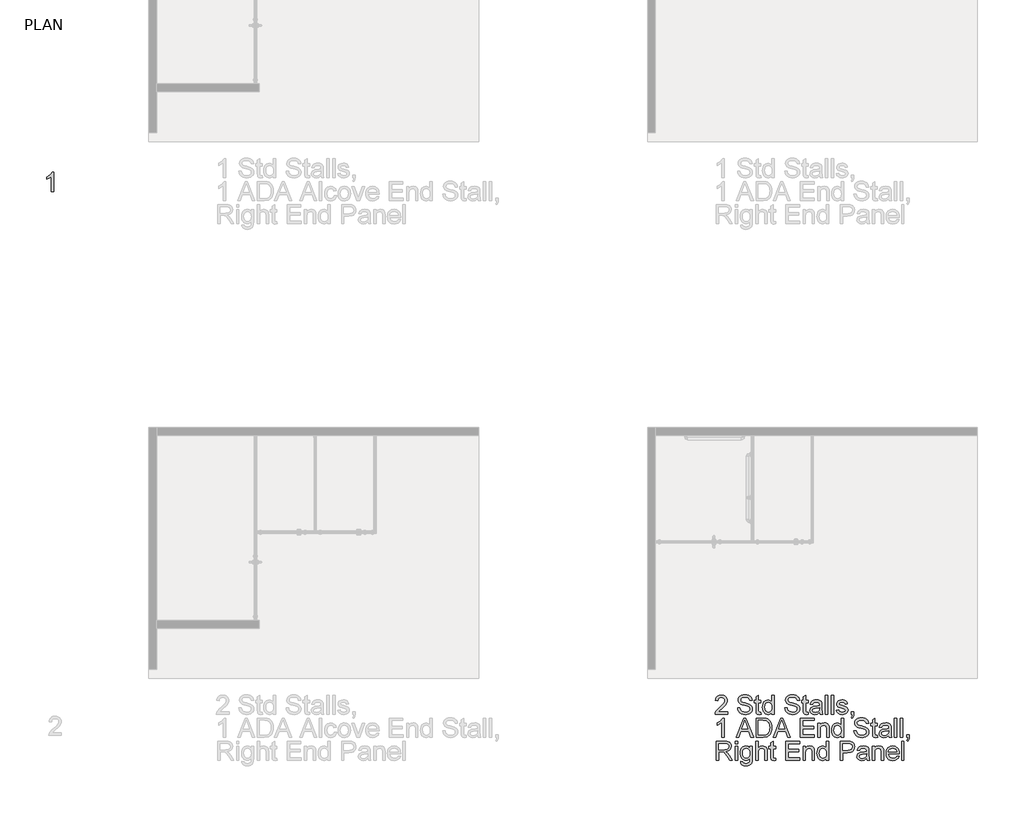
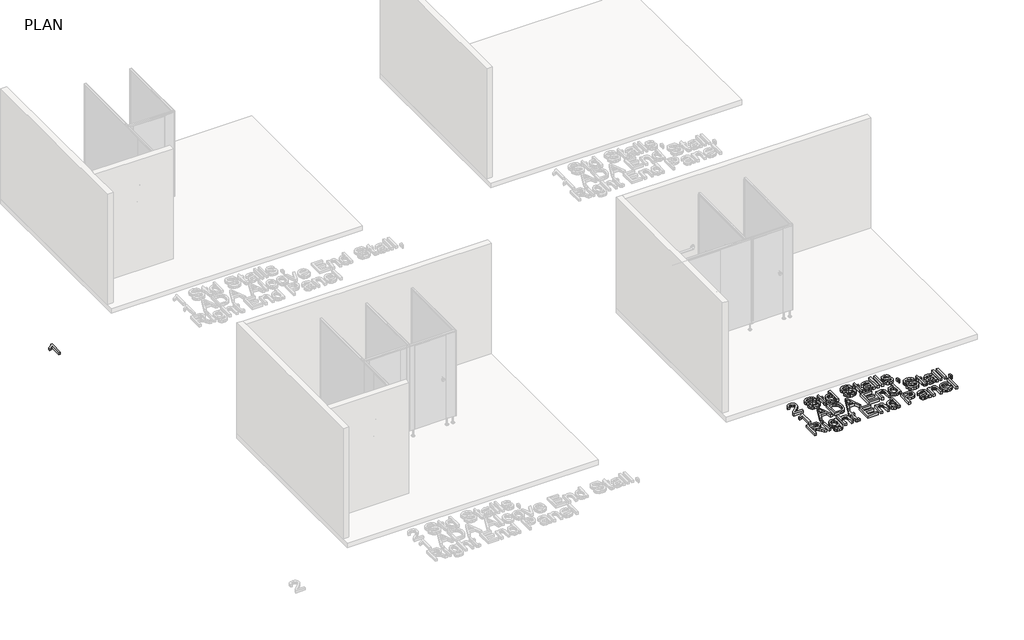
# One storey, part 15 of 21: 2 proxies.
"""IFC4 building model written with IfcOpenShell, lengths in millimetres."""

import ifcopenshell
import ifcopenshell.guid

model = None  # the IFC model being written
_history = None  # IfcOwnerHistory: only IFC2X3 demands one
_inside = {}  # id of a spatial element -> (the spatial element, [elements in it])
_under = {}  # id of a project, library or spatial element -> (it, [spatial elements below it])
_declared = {}  # id of a project -> (the project, [libraries it declares])
_typed = {}  # id of a type object -> (the type object, [elements of that type])
_made_of = {}  # id of a material, layer set ... -> (it, [elements and type objects made of it])


def new_model(schema):
    """Start an empty IFC model of exactly this schema.

    Asked for "IFC4X3", IfcOpenShell would pick the latest addendum, in which some entities
    have other attributes; the version numbers below select the first issue.
    IFC2X3 requires an IfcOwnerHistory on every rooted entity: one is made here for all.
    """
    global model, _history
    if schema == "IFC4X3":
        model = ifcopenshell.file(schema_version=(4, 3, 0, 0))
    else:
        model = ifcopenshell.file(schema=schema)
    _inside.clear()
    _under.clear()
    _declared.clear()
    _typed.clear()
    _made_of.clear()
    _history = None
    if model.schema == "IFC2X3":
        org = make("IfcOrganization", Name="unknown")
        user = make(
            "IfcPersonAndOrganization",
            ThePerson=make("IfcPerson", FamilyName="unknown"),
            TheOrganization=org,
        )
        app = make(
            "IfcApplication",
            ApplicationDeveloper=org,
            Version="unknown",
            ApplicationFullName="unknown",
            ApplicationIdentifier="unknown",
        )
        _history = make(
            "IfcOwnerHistory",
            OwningUser=user,
            OwningApplication=app,
            ChangeAction="ADDED",
            CreationDate=0,
        )
    return model


def make(cls, **values):
    """One entity of the class cls with the attributes given. An attribute that is None is left unset."""
    return model.create_entity(
        cls, **{name: value for name, value in values.items() if value is not None}
    )


def rooted(cls, **values):
    """An entity with a GlobalId (a new one), such as an element, a storey or a relation."""
    return make(cls, GlobalId=ifcopenshell.guid.new(), OwnerHistory=_history, **values)


def si_unit(unit_type, name, prefix=None):
    """IfcSIUnit, for example si_unit("LENGTHUNIT", "METRE", prefix="MILLI")."""
    return make("IfcSIUnit", UnitType=unit_type, Prefix=prefix, Name=name)


def assignment(units):
    """IfcUnitAssignment: the units of a project."""
    return None if units is None else make("IfcUnitAssignment", Units=units)


def point(xyz):
    """IfcCartesianPoint."""
    return None if xyz is None else make("IfcCartesianPoint", Coordinates=xyz)


def direction(xyz):
    """IfcDirection."""
    return None if xyz is None else make("IfcDirection", DirectionRatios=xyz)


def frame(location, z_axis=None, x_axis=None):
    """IfcAxis2Placement3D, a coordinate frame: its origin and axes. An axis left out is left unset."""
    return make(
        "IfcAxis2Placement3D",
        Location=point(location),
        Axis=direction(z_axis),
        RefDirection=direction(x_axis),
    )


def origin():
    """The frame at (0, 0, 0) with its axes left unset."""
    return frame((0.0, 0.0, 0.0))


def origin_with_axes():
    """The frame at (0, 0, 0) with the z axis (0, 0, 1) and the x axis (1, 0, 0) written out."""
    return frame((0.0, 0.0, 0.0), z_axis=(0.0, 0.0, 1.0), x_axis=(1.0, 0.0, 0.0))


def place(relative_to, where):
    """IfcLocalPlacement: puts the frame where relative to a parent placement (None: the world)."""
    return make(
        "IfcLocalPlacement", PlacementRelTo=relative_to, RelativePlacement=where
    )


def context(
    kind, dimensions, precision=None, world=None, true_north=None, identifier=None
):
    """IfcGeometricRepresentationContext, for example the 3D "Model" context."""
    return make(
        "IfcGeometricRepresentationContext",
        ContextIdentifier=identifier,
        ContextType=kind,
        CoordinateSpaceDimension=dimensions,
        Precision=precision,
        WorldCoordinateSystem=world,
        TrueNorth=true_north,
    )


def project(units=None, contexts=None):
    """IfcProject with its units and contexts."""
    return rooted(
        "IfcProject",
        Name="project",
        RepresentationContexts=contexts,
        UnitsInContext=assignment(units),
    )


def spatial(cls, under=None, at=None, **own):
    """A site, building, storey or space (cls), placed at a placement, below another one or the project."""
    s = rooted(cls, ObjectPlacement=at, **own)
    if under is not None:
        _under.setdefault(under.id(), (under, []))[1].append(s)
    return s


def polyline(points):
    """IfcPolyline through the points."""
    return make("IfcPolyline", Points=[point(p) for p in points])


def outline(outer, holes=None, kind="AREA"):
    """IfcArbitraryClosedProfileDef: a profile drawn as a closed curve; with holes, ...WithVoids."""
    if holes is None:
        return make("IfcArbitraryClosedProfileDef", ProfileType=kind, OuterCurve=outer)
    return make(
        "IfcArbitraryProfileDefWithVoids",
        ProfileType=kind,
        OuterCurve=outer,
        InnerCurves=holes,
    )


def extrude(swept, where, along, depth):
    """IfcExtrudedAreaSolid: the profile swept, set in the frame where, extruded along a direction by depth."""
    return make(
        "IfcExtrudedAreaSolid",
        SweptArea=swept,
        Position=where,
        ExtrudedDirection=direction(along),
        Depth=depth,
    )


def shape(context_of_items, identifier, shape_type, items):
    """IfcShapeRepresentation: the items that make up one representation, for example the "Body"."""
    return make(
        "IfcShapeRepresentation",
        ContextOfItems=context_of_items,
        RepresentationIdentifier=identifier,
        RepresentationType=shape_type,
        Items=items,
    )


def made_of(thing, what):
    """Note that an element or type object is made of a material, layer set ...; save() writes the relation."""
    if what is not None:
        _made_of.setdefault(what.id(), (what, []))[1].append(thing)
    return thing


def element(
    cls,
    number,
    at=None,
    inside=None,
    cuts=None,
    type_object=None,
    material=None,
    context=None,
    identifier="Body",
    shape_type=None,
    held_by="IfcProductDefinitionShape",
    body=None,
    shapes=None,
    **own,
):
    """One element of the class cls, such as IfcWall. Its Tag is "e" and its number.

    at: its placement. inside: the storey or other place that contains it. cuts: it is an
    opening in that element (IfcRelVoidsElement). A single representation is given by context,
    identifier, shape_type and body (its items); several are given by shapes. held_by: the class
    of the entity that holds the representations. save() writes the other relations.
    """
    e = rooted(cls, Tag="e%d" % number, ObjectPlacement=at, **own)
    if body is not None:
        shapes = [shape(context, identifier, shape_type, body)]
    if shapes is not None:
        e.Representation = make(held_by, Representations=shapes)
    if inside is not None:
        _inside.setdefault(inside.id(), (inside, []))[1].append(e)
    if cuts is not None:
        rooted(
            "IfcRelVoidsElement", RelatingBuildingElement=cuts, RelatedOpeningElement=e
        )
    if type_object is not None:
        _typed.setdefault(type_object.id(), (type_object, []))[1].append(e)
    return made_of(e, material)


def aggregate(whole, parts):
    """IfcRelAggregates: a whole, such as a stair, and the parts it consists of."""
    return rooted("IfcRelAggregates", RelatingObject=whole, RelatedObjects=parts)


def save(model, path):
    """Write the relations noted so far, then the file.

    IfcRelAggregates (storeys below a building ...), IfcRelContainedInSpatialStructure (elements
    in a storey), IfcRelDefinesByType, IfcRelAssociatesMaterial and IfcRelDeclares: one each for
    every whole, place, type object, material and project.
    """
    for whole, parts in _under.values():
        aggregate(whole, parts)
    for where, things in _inside.values():
        rooted(
            "IfcRelContainedInSpatialStructure",
            RelatedElements=things,
            RelatingStructure=where,
        )
    for kind, things in _typed.values():
        rooted("IfcRelDefinesByType", RelatedObjects=things, RelatingType=kind)
    for what, things in _made_of.values():
        rooted("IfcRelAssociatesMaterial", RelatedObjects=things, RelatingMaterial=what)
    for by, libraries in _declared.values():
        rooted("IfcRelDeclares", RelatingContext=by, RelatedDefinitions=libraries)
    model.write(path)


model = new_model("IFC4")

# Units and contexts
model_context = context("Model", 3, world=origin())
ifc_project = project(units=[si_unit("LENGTHUNIT", "METRE", prefix="MILLI")], contexts=[model_context])

# Site, building, storey
site = spatial("IfcSite", under=ifc_project)
building = spatial("IfcBuilding", under=site)
storey = spatial("IfcBuildingStorey", under=building, Name="PLAN", Elevation=0.0)

# Proxies
placement = place(None, origin())
element("IfcBuildingElementProxy", 1, Name="12\" Arial", ObjectType="12\" Arial", at=placement, inside=storey, context=model_context, shape_type="SweptSolid", body=[
    extrude(outline(polyline([(-24604.2602811, 20562.3650524), (-24642.3311679, 20562.3650524), (-24642.3311679, 20799.7132371), (-24678.3944102, 20774.0228242), (-24718.4729414, 20754.8014878), (-24718.4729414, 20790.790373), (-24688.572052, 20807.0560106), (-24662.6678623, 20826.4074721), (-24642.247516, 20846.9858274), (-24628.7981573, 20866.9321465), (-24604.2602811, 20866.9321465), (-24604.2602811, 20562.3650524)])), origin_with_axes(), (0.0, 0.0, 1.0), 50.8),
])
element("IfcBuildingElementProxy", 2, Name="12\" Arial", ObjectType="12\" Arial", at=placement, inside=storey, context=model_context, shape_type="SweptSolid", body=[
    extrude(outline(polyline([(-13893.5095314, 12285.5104506), (-13893.5095314, 12247.4395639), (-14093.3816869, 12247.4395639), (-14089.2920408, 12273.6876557), (-14079.9044443, 12294.2009485), (-14066.1669514, 12314.1007943), (-14046.2949895, 12334.9301052), (-14018.5039858, 12358.2317929), (-13977.4216324, 12394.7225892), (-13952.7722204, 12421.6584851), (-13940.4475143, 12443.5195021), (-13936.339279, 12464.7856615), (-13940.2151481, 12483.8489889), (-13951.8427553, 12499.6963673), (-13969.7163675, 12510.3759202), (-13992.3302511, 12513.9357712), (-14016.0780821, 12510.4595721), (-14034.5279625, 12500.0309747), (-14046.4344093, 12483.4679082), (-14050.5519393, 12461.5883019), (-14088.622826, 12466.3471627), (-14085.3487855, 12486.0007003), (-14079.3932385, 12503.1725664), (-14070.7561849, 12517.8627608), (-14059.4376248, 12530.0712837), (-14045.6978083, 12539.66801), (-14029.7969856, 12546.5228144), (-13991.5123219, 12552.0066579), (-13971.1082413, 12550.4823353), (-13952.9488187, 12545.9093675), (-13937.0340541, 12538.2877544), (-13923.3639475, 12527.6174961), (-13912.3846421, 12514.6886378), (-13904.542281, 12500.2912249), (-13899.8368644, 12484.4252572), (-13898.2683922, 12467.0907347), (-13899.9600186, 12448.8825152), (-13905.0348975, 12430.9903138), (-13914.0414134, 12412.7913889), (-13927.5279507, 12393.6629991), (-13949.0264764, 12370.8260438), (-13982.0689574, 12341.5014228), (-14025.8653486, 12304.8805014), (-14043.041862, 12285.5104506), (-13893.5095314, 12285.5104506)])), origin_with_axes(), (0.0, 0.0, 1.0), 50.8),
    extrude(outline(polyline([(-13736.4671235, 12352.1345025), (-13698.3962368, 12352.1345025), (-13694.0277512, 12331.0077628), (-13686.1272986, 12314.0264371), (-13673.8025926, 12300.5491945), (-13656.1613468, 12289.9347041), (-13634.5977586, 12283.0473684), (-13610.5060255, 12280.7515898), (-13589.295634, 12282.4896894), (-13570.7249232, 12287.7039881), (-13555.6768847, 12295.9576373), (-13545.0345103, 12306.8137886), (-13538.7048536, 12319.2779144), (-13536.594968, 12332.3554871), (-13538.1750585, 12345.0984523), (-13542.9153301, 12356.1126127), (-13552.5445876, 12365.5095039), (-13568.7916359, 12373.4006619), (-13624.2249291, 12387.9374946), (-13660.6134842, 12397.5574574), (-13683.8965826, 12406.7126878), (-13702.8483741, 12419.5207156), (-13716.2791435, 12435.0427812), (-13724.2818373, 12452.9442773), (-13726.9494018, 12472.8905964), (-13723.649801, 12495.188462), (-13713.7509987, 12515.9805942), (-13697.513245, 12533.6032508), (-13675.1967901, 12546.3926893), (-13648.4096086, 12554.1723114), (-13618.7596748, 12556.7655188), (-13586.6373641, 12554.051481), (-13558.5303422, 12545.9093675), (-13535.4424314, 12532.5064821), (-13518.3774539, 12514.0101284), (-13507.5770705, 12491.5728431), (-13503.2829421, 12466.3471627), (-13541.3538289, 12466.3471627), (-13548.3434057, 12489.0632876), (-13562.9174171, 12505.4590503), (-13585.6893098, 12515.3857366), (-13617.2725308, 12518.694632), (-13649.5993238, 12515.4229152), (-13671.7763589, 12505.6077647), (-13684.602976, 12491.1638785), (-13688.8785151, 12474.0059544), (-13685.8484591, 12459.3761752), (-13676.7582914, 12447.6091482), (-13655.2690604, 12437.0876043), (-13614.5956716, 12426.3429888), (-13572.6210318, 12416.137463), (-13547.2280477, 12407.2331882), (-13525.5250398, 12393.4213382), (-13510.3840548, 12376.3749499), (-13501.4890747, 12356.2799164), (-13498.5240813, 12333.3221307), (-13501.9352179, 12309.8531392), (-13512.1686276, 12287.7783453), (-13528.8060513, 12268.7800805), (-13551.4292296, 12254.5406765), (-13578.6346704, 12245.6456964), (-13609.0188815, 12242.680703), (-13646.3183123, 12245.8780627), (-13677.0185416, 12255.4701416), (-13701.4727659, 12271.4941183), (-13720.0341822, 12293.9871715), (-13731.9499236, 12321.3878), (-13736.4671235, 12352.1345025)])), origin_with_axes(), (0.0, 0.0, 1.0), 50.8),
    extrude(outline(polyline([(-13365.2759776, 12279.1900886), (-13360.5171168, 12246.3242059), (-13388.9959246, 12242.680703), (-13407.2692067, 12244.2607935), (-13420.8951637, 12249.0010651), (-13430.5244212, 12256.3066601), (-13436.8076047, 12265.5827208), (-13440.2652145, 12281.5137511), (-13441.4177511, 12308.7842545), (-13441.4177511, 12433.0351368), (-13469.9709162, 12433.0351368), (-13469.9709162, 12471.1060236), (-13441.4177511, 12471.1060236), (-13441.4177511, 12525.4611373), (-13403.3468644, 12547.8426547), (-13403.3468644, 12471.1060236), (-13365.2759776, 12471.1060236), (-13365.2759776, 12433.0351368), (-13403.3468644, 12433.0351368), (-13403.3468644, 12309.8996125), (-13401.33922, 12290.2693115), (-13394.8329649, 12283.3169132), (-13381.8576334, 12280.7515898), (-13365.2759776, 12279.1900886)])), origin_with_axes(), (0.0, 0.0, 1.0), 50.8),
    extrude(outline(polyline([(-13189.1981264, 12247.4395639), (-13189.1981264, 12283.3540918), (-13200.58872, 12265.5594842), (-13214.3866281, 12252.8490502), (-13230.5918505, 12245.2227898), (-13249.2043873, 12242.680703), (-13273.8166208, 12246.3613845), (-13296.3468526, 12257.4034288), (-13315.4194746, 12275.03538), (-13329.6588785, 12298.4857822), (-13338.5259747, 12326.806581), (-13341.4816734, 12359.0497221), (-13338.7583409, 12390.8931933), (-13330.5883435, 12419.6508407), (-13316.9809758, 12443.6868058), (-13297.9455324, 12461.3652303), (-13274.9226841, 12472.2399709), (-13249.3531017, 12475.8648844), (-13230.726623, 12473.2716771), (-13214.256503, 12465.4920549), (-13200.2959386, 12453.5670189), (-13189.1981264, 12438.5375697), (-13189.1981264, 12552.0066579), (-13151.1272396, 12552.0066579), (-13151.1272396, 12247.4395639), (-13189.1981264, 12247.4395639)]), holes=[polyline([(-13303.4107866, 12359.1984365), (-13299.1166583, 12324.761758), (-13286.2342733, 12300.270355), (-13267.514848, 12285.6312811), (-13245.7095989, 12280.7515898), (-13223.9136444, 12285.4082095), (-13205.6682463, 12299.3780686), (-13193.3156564, 12322.9214172), (-13189.1981264, 12356.2985057), (-13193.3900136, 12392.7893019), (-13205.9656751, 12418.0893395), (-13224.6758057, 12432.8678331), (-13247.2711001, 12437.7939977), (-13269.2994208, 12433.0630208), (-13287.3496313, 12418.8700901), (-13299.3954978, 12394.4902229), (-13303.4107866, 12359.1984365)])]), origin_with_axes(), (0.0, 0.0, 1.0), 50.8),
    extrude(outline(polyline([(-12984.56711, 12352.1345025), (-12946.4962233, 12352.1345025), (-12942.1277377, 12331.0077628), (-12934.2272852, 12314.0264371), (-12921.9025791, 12300.5491945), (-12904.2613333, 12289.9347041), (-12882.6977451, 12283.0473684), (-12858.606012, 12280.7515898), (-12837.3956205, 12282.4896894), (-12818.8249097, 12287.7039881), (-12803.7768712, 12295.9576373), (-12793.1344968, 12306.8137886), (-12786.8048401, 12319.2779144), (-12784.6949546, 12332.3554871), (-12786.2750451, 12345.0984523), (-12791.0153166, 12356.1126127), (-12800.6445741, 12365.5095039), (-12816.8916225, 12373.4006619), (-12872.3249156, 12387.9374946), (-12908.7134707, 12397.5574574), (-12931.9965691, 12406.7126878), (-12950.9483607, 12419.5207156), (-12964.37913, 12435.0427812), (-12972.3818238, 12452.9442773), (-12975.0493883, 12472.8905964), (-12971.7497876, 12495.188462), (-12961.8509852, 12515.9805942), (-12945.6132315, 12533.6032508), (-12923.2967767, 12546.3926893), (-12896.5095951, 12554.1723114), (-12866.8596613, 12556.7655188), (-12834.7373506, 12554.051481), (-12806.6303288, 12545.9093675), (-12783.5424179, 12532.5064821), (-12766.4774404, 12514.0101284), (-12755.677057, 12491.5728431), (-12751.3829286, 12466.3471627), (-12789.4538154, 12466.3471627), (-12796.4433923, 12489.0632876), (-12811.0174036, 12505.4590503), (-12833.7892963, 12515.3857366), (-12865.3725173, 12518.694632), (-12897.6993103, 12515.4229152), (-12919.8763454, 12505.6077647), (-12932.7029625, 12491.1638785), (-12936.9785016, 12474.0059544), (-12933.9484457, 12459.3761752), (-12924.8582779, 12447.6091482), (-12903.3690469, 12437.0876043), (-12862.6956581, 12426.3429888), (-12820.7210183, 12416.137463), (-12795.3280343, 12407.2331882), (-12773.6250263, 12393.4213382), (-12758.4840413, 12376.3749499), (-12749.5890612, 12356.2799164), (-12746.6240678, 12333.3221307), (-12750.0352044, 12309.8531392), (-12760.2686141, 12287.7783453), (-12776.9060378, 12268.7800805), (-12799.5292161, 12254.5406765), (-12826.7346569, 12245.6456964), (-12857.118868, 12242.680703), (-12894.4182988, 12245.8780627), (-12925.1185281, 12255.4701416), (-12949.5727525, 12271.4941183), (-12968.1341687, 12293.9871715), (-12980.0499101, 12321.3878), (-12984.56711, 12352.1345025)])), origin_with_axes(), (0.0, 0.0, 1.0), 50.8),
    extrude(outline(polyline([(-12613.3759641, 12279.1900886), (-12608.6171033, 12246.3242059), (-12637.0959112, 12242.680703), (-12655.3691932, 12244.2607935), (-12668.9951503, 12249.0010651), (-12678.6244078, 12256.3066601), (-12684.9075912, 12265.5827208), (-12688.365201, 12281.5137511), (-12689.5177377, 12308.7842545), (-12689.5177377, 12433.0351368), (-12718.0709027, 12433.0351368), (-12718.0709027, 12471.1060236), (-12689.5177377, 12471.1060236), (-12689.5177377, 12525.4611373), (-12651.4468509, 12547.8426547), (-12651.4468509, 12471.1060236), (-12613.3759641, 12471.1060236), (-12613.3759641, 12433.0351368), (-12651.4468509, 12433.0351368), (-12651.4468509, 12309.8996125), (-12649.4392065, 12290.2693115), (-12642.9329514, 12283.3169132), (-12629.9576199, 12280.7515898), (-12613.3759641, 12279.1900886)])), origin_with_axes(), (0.0, 0.0, 1.0), 50.8),
    extrude(outline(polyline([(-12432.539252, 12275.9927289), (-12450.7288823, 12260.3963061), (-12469.4576022, 12250.1907803), (-12489.1529657, 12244.5582224), (-12510.2425268, 12242.680703), (-12542.058114, 12247.197903), (-12565.5271055, 12260.7495028), (-12579.9988757, 12281.3278581), (-12584.8227991, 12306.9253244), (-12583.0010477, 12322.7076403), (-12577.5357934, 12337.0399907), (-12569.1055458, 12349.3089288), (-12558.3888142, 12358.9010077), (-12531.7317578, 12371.3930174), (-12498.7915179, 12377.1185219), (-12459.8655233, 12383.1414552), (-12432.7623236, 12390.2053892), (-12432.539252, 12398.6821101), (-12435.1603434, 12415.6727305), (-12443.0236173, 12426.789132), (-12460.6090953, 12435.0427812), (-12485.1097929, 12437.7939977), (-12507.7887391, 12435.9629516), (-12523.6268229, 12430.4698134), (-12534.4272063, 12420.3107609), (-12541.9930515, 12404.4819718), (-12580.0639382, 12409.2408326), (-12573.455442, 12430.0608488), (-12563.5938183, 12446.419433), (-12549.5588966, 12458.930032), (-12530.4305068, 12468.2060928), (-12507.0358725, 12473.9501865), (-12480.2022177, 12475.8648844), (-12454.4653316, 12474.1732581), (-12434.0635747, 12469.0983792), (-12418.6809288, 12461.4674714), (-12408.0013758, 12452.1077588), (-12400.9188524, 12440.5359194), (-12396.3272953, 12426.2686316), (-12394.4683653, 12392.9566056), (-12394.4683653, 12345.5910688), (-12392.5350781, 12279.4503388), (-12384.9506436, 12247.4395639), (-12423.0215303, 12247.4395639), (-12429.1188208, 12260.6751456), (-12432.539252, 12275.9927289)]), holes=[polyline([(-12432.539252, 12352.1345025), (-12493.9582998, 12340.460422), (-12526.7126467, 12334.2887743), (-12541.5469083, 12324.2505522), (-12546.7519123, 12309.6021837), (-12543.917044, 12298.2812999), (-12535.4124392, 12289.0052391), (-12521.4239908, 12282.8150021), (-12502.1375919, 12280.7515898), (-12481.6893617, 12283.0287791), (-12463.6205619, 12289.8603469), (-12448.9721934, 12299.9264529), (-12438.7852569, 12311.9072569), (-12434.268057, 12324.2505522), (-12432.7623236, 12341.3527084), (-12432.539252, 12352.1345025)])]), origin_with_axes(), (0.0, 0.0, 1.0), 50.8),
    extrude(outline(polyline([(-12342.120896, 12247.4395639), (-12342.120896, 12552.0066579), (-12304.0500092, 12552.0066579), (-12304.0500092, 12247.4395639), (-12342.120896, 12247.4395639)])), origin_with_axes(), (0.0, 0.0, 1.0), 50.8),
    extrude(outline(polyline([(-12246.9436791, 12247.4395639), (-12246.9436791, 12552.0066579), (-12208.8727923, 12552.0066579), (-12208.8727923, 12247.4395639), (-12246.9436791, 12247.4395639)])), origin_with_axes(), (0.0, 0.0, 1.0), 50.8),
    extrude(outline(polyline([(-12166.0430447, 12314.0636157), (-12127.972158, 12318.8224765), (-12121.967814, 12302.5382496), (-12110.3495014, 12290.5667403), (-12093.0428629, 12283.2053774), (-12069.9735414, 12280.7515898), (-12047.1830594, 12283.0008951), (-12031.1590827, 12289.7488111), (-12021.6785396, 12299.526783), (-12018.5183585, 12310.8662561), (-12021.6971289, 12320.5698708), (-12031.2334399, 12327.9684122), (-12070.4196846, 12338.8245635), (-12127.7490864, 12357.4510423), (-12142.2580352, 12366.810755), (-12152.7702844, 12379.2005235), (-12159.155709, 12393.8303028), (-12161.2841839, 12409.9100474), (-12159.5739683, 12424.6606571), (-12154.4433214, 12438.2773195), (-12146.3569758, 12450.2209448), (-12135.779664, 12459.9524435), (-12111.5763952, 12471.2175594), (-12078.8220483, 12475.8648844), (-12054.0425112, 12473.9966598), (-12032.4975123, 12468.3919858), (-12015.1722845, 12459.5992468), (-12003.0520608, 12448.1668272), (-11995.0214831, 12433.2489138), (-11989.9651935, 12413.9996934), (-12028.0360802, 12409.2408326), (-12032.8414143, 12421.2216366), (-12042.3498414, 12430.2467418), (-12056.6543078, 12435.9071837), (-12075.8477603, 12437.7939977), (-12097.7087773, 12435.9908356), (-12112.2827886, 12430.5813492), (-12120.48067, 12422.7738431), (-12123.2132971, 12413.7766218), (-12118.6775079, 12402.6973989), (-12104.4752825, 12394.2950353), (-12071.683757, 12386.1901004), (-12015.8043207, 12368.270015), (-12001.0444164, 12359.7003476), (-11989.8536577, 12347.9704992), (-11982.7990183, 12333.0432912), (-11980.4474718, 12314.8815449), (-11983.2079829, 12296.1063517), (-11991.4895161, 12278.4465166), (-12004.9760534, 12263.2869423), (-12023.3515766, 12252.0125317), (-12045.547201, 12245.0136602), (-12070.4940418, 12242.680703), (-12108.8809467, 12247.1793137), (-12136.8950221, 12260.6751456), (-12155.595858, 12283.0194844), (-12166.0430447, 12314.0636157)])), origin_with_axes(), (0.0, 0.0, 1.0), 50.8),
    extrude(outline(polyline([(-11928.1000025, 12247.4395639), (-11928.1000025, 12285.5104506), (-11890.0291157, 12285.5104506), (-11890.0291157, 12247.4395639), (-11891.7393313, 12225.6621987), (-11896.8699782, 12208.5135693), (-11905.7184851, 12195.3616394), (-11918.5822808, 12185.5743729), (-11928.1000025, 12199.8509554), (-11919.8463532, 12206.7475858), (-11914.1208488, 12216.2838968), (-11909.1389163, 12247.4395639), (-11928.1000025, 12247.4395639)])), origin_with_axes(), (0.0, 0.0, 1.0), 50.8),
    extrude(outline(polyline([(-13945.8570007, 11881.3868995), (-13983.9278874, 11881.3868995), (-13983.9278874, 12118.7350842), (-14019.9911298, 12093.0446713), (-14060.069661, 12073.823335), (-14060.069661, 12109.8122201), (-14030.1687716, 12126.0778577), (-14004.2645818, 12145.4293192), (-13983.8442356, 12166.0076745), (-13970.3948769, 12185.9539936), (-13945.8570007, 12185.9539936), (-13945.8570007, 11881.3868995)])), origin_with_axes(), (0.0, 0.0, 1.0), 50.8),
    extrude(outline(polyline([(-13757.6589257, 11881.3868995), (-13636.0849026, 12185.9539936), (-13603.6651631, 12185.9539936), (-13482.0911399, 11881.3868995), (-13522.3183855, 11881.3868995), (-13557.1919126, 11976.5641164), (-13682.6325102, 11976.5641164), (-13717.4316801, 11881.3868995), (-13757.6589257, 11881.3868995)]), holes=[polyline([(-13668.6533565, 12014.6350032), (-13571.0967092, 12014.6350032), (-13598.5345162, 12089.5127043), (-13619.8750328, 12147.8831068), (-13638.836119, 12096.056138), (-13668.6533565, 12014.6350032)])]), origin_with_axes(), (0.0, 0.0, 1.0), 50.8),
    extrude(outline(polyline([(-13441.4177511, 11881.3868995), (-13441.4177511, 12185.9539936), (-13336.3510265, 12185.9539936), (-13281.9959128, 12181.5669188), (-13257.7182868, 12173.1087872), (-13237.232878, 12159.780259), (-13216.1712009, 12136.5808123), (-13201.1696357, 12107.7302185), (-13192.1910037, 12073.7861564), (-13189.1981264, 12035.306305), (-13191.2243601, 12002.6170206), (-13197.3030612, 11973.8500786), (-13206.5605327, 11949.3586756), (-13218.1230774, 11929.4960084), (-13231.4330164, 11913.8159337), (-13245.9326705, 11901.8723083), (-13262.5793888, 11893.0145068), (-13282.3305202, 11886.5919036), (-13331.2947369, 11881.3868995), (-13441.4177511, 11881.3868995)]), holes=[polyline([(-13403.3468644, 11919.4577863), (-13335.9792405, 11919.4577863), (-13308.1138796, 11920.8333945), (-13286.9778453, 11924.9602191), (-13271.0282257, 11931.5965993), (-13258.722109, 11940.5008741), (-13245.4958219, 11956.9802887), (-13235.559841, 11978.3115107), (-13229.3417201, 12004.5874864), (-13227.2690131, 12035.9011626), (-13231.3307752, 12077.3924806), (-13243.5160615, 12108.0276473), (-13261.5197987, 12129.0707351), (-13283.0369136, 12141.7858164), (-13304.9351093, 12146.3587842), (-13337.0202414, 12147.8831068), (-13403.3468644, 12147.8831068), (-13403.3468644, 11919.4577863)])]), origin_with_axes(), (0.0, 0.0, 1.0), 50.8),
    extrude(outline(polyline([(-13172.3190418, 11881.3868995), (-13050.7450187, 12185.9539936), (-13018.3252792, 12185.9539936), (-12896.751256, 11881.3868995), (-12936.9785016, 11881.3868995), (-12971.8520287, 11976.5641164), (-13097.2926263, 11976.5641164), (-13132.0917962, 11881.3868995), (-13172.3190418, 11881.3868995)]), holes=[polyline([(-13083.3134726, 12014.6350032), (-12985.7568252, 12014.6350032), (-13013.1946323, 12089.5127043), (-13034.5351489, 12147.8831068), (-13053.4962351, 12096.056138), (-13083.3134726, 12014.6350032)])]), origin_with_axes(), (0.0, 0.0, 1.0), 50.8),
    extrude(outline(polyline([(-12737.1063461, 11881.3868995), (-12737.1063461, 12185.9539936), (-12518.1987472, 12185.9539936), (-12518.1987472, 12147.8831068), (-12699.0354593, 12147.8831068), (-12699.0354593, 12057.4647508), (-12527.7164689, 12057.4647508), (-12527.7164689, 12019.393864), (-12699.0354593, 12019.393864), (-12699.0354593, 11919.4577863), (-12513.4398864, 11919.4577863), (-12513.4398864, 11881.3868995), (-12737.1063461, 11881.3868995)])), origin_with_axes(), (0.0, 0.0, 1.0), 50.8),
    extrude(outline(polyline([(-12461.0924171, 11881.3868995), (-12461.0924171, 12105.0533592), (-12423.0215303, 12105.0533592), (-12423.0215303, 12073.823335), (-12409.7952433, 12089.5684722), (-12393.9106863, 12100.8149988), (-12375.3678593, 12107.5629148), (-12354.1667625, 12109.8122201), (-12335.400864, 12107.9997633), (-12318.215056, 12102.562393), (-12303.8827055, 12094.1786186), (-12293.6771797, 12083.5269496), (-12282.2633494, 12055.5314636), (-12280.255705, 12018.7246492), (-12280.255705, 11881.3868995), (-12318.3265918, 11881.3868995), (-12318.3265918, 12013.5940024), (-12322.7136666, 12047.2778143), (-12328.7830731, 12057.3067417), (-12338.2171429, 12065.0863639), (-12350.3094827, 12070.077591), (-12364.353699, 12071.7413333), (-12386.6515646, 12068.004884), (-12405.659124, 12056.795536), (-12413.2551768, 12047.644953), (-12418.6809288, 12035.1390013), (-12423.0215303, 12000.0609919), (-12423.0215303, 11881.3868995), (-12461.0924171, 11881.3868995)])), origin_with_axes(), (0.0, 0.0, 1.0), 50.8),
    extrude(outline(polyline([(-12089.9012712, 11881.3868995), (-12089.9012712, 11917.3014275), (-12101.2918649, 11899.5068199), (-12115.0897729, 11886.7963859), (-12131.2949954, 11879.1701255), (-12149.9075322, 11876.6280387), (-12174.5197656, 11880.3087201), (-12197.0499974, 11891.3507644), (-12216.1226194, 11908.9827156), (-12230.3620233, 11932.4331178), (-12239.2291195, 11960.7539166), (-12242.1848182, 11992.9970578), (-12239.4614858, 12024.840529), (-12231.2914883, 12053.5981764), (-12217.6841206, 12077.6341415), (-12198.6486772, 12095.312566), (-12175.625829, 12106.1873066), (-12150.0562466, 12109.8122201), (-12131.4297678, 12107.2190127), (-12114.9596478, 12099.4393906), (-12100.9990834, 12087.5143545), (-12089.9012712, 12072.4849053), (-12089.9012712, 12185.9539936), (-12051.8303845, 12185.9539936), (-12051.8303845, 11881.3868995), (-12089.9012712, 11881.3868995)]), holes=[polyline([(-12204.1139315, 11993.1457722), (-12199.8198031, 11958.7090936), (-12186.9374181, 11934.2176906), (-12168.2179928, 11919.5786167), (-12146.4127437, 11914.6989255), (-12124.6167893, 11919.3555451), (-12106.3713912, 11933.3254042), (-12094.0188012, 11956.8687529), (-12089.9012712, 11990.2458414), (-12094.0931584, 12026.7366376), (-12106.66882, 12052.0366751), (-12125.3789506, 12066.8151688), (-12147.974245, 12071.7413333), (-12170.0025657, 12067.0103564), (-12188.0527761, 12052.8174258), (-12200.0986426, 12028.4375586), (-12204.1139315, 11993.1457722)])]), origin_with_axes(), (0.0, 0.0, 1.0), 50.8),
    extrude(outline(polyline([(-11885.2702549, 11986.0818381), (-11847.1993681, 11986.0818381), (-11842.8308826, 11964.9550985), (-11834.93043, 11947.9737728), (-11822.605724, 11934.4965301), (-11804.9644781, 11923.8820397), (-11783.4008899, 11916.994704), (-11759.3091569, 11914.6989255), (-11738.0987654, 11916.437025), (-11719.5280545, 11921.6513237), (-11704.480016, 11929.904973), (-11693.8376417, 11940.7611243), (-11687.507985, 11953.2252501), (-11685.3980994, 11966.3028227), (-11686.9781899, 11979.045788), (-11691.7184615, 11990.0599484), (-11701.3477189, 11999.4568396), (-11717.5947673, 12007.3479975), (-11773.0280604, 12021.8848303), (-11809.4166155, 12031.5047931), (-11832.699714, 12040.6600234), (-11851.6515055, 12053.4680513), (-11865.0822749, 12068.9901169), (-11873.0849686, 12086.891613), (-11875.7525332, 12106.8379321), (-11872.4529324, 12129.1357976), (-11862.5541301, 12149.9279299), (-11846.3163764, 12167.5505864), (-11823.9999215, 12180.340025), (-11797.21274, 12188.1196471), (-11767.5628062, 12190.7128545), (-11735.4404955, 12187.9988166), (-11707.3334736, 12179.8567031), (-11684.2455628, 12166.4538177), (-11667.1805852, 12147.957464), (-11656.3802018, 12125.5201787), (-11652.0860735, 12100.2944984), (-11690.1569602, 12100.2944984), (-11697.1465371, 12123.0106232), (-11711.7205484, 12139.406386), (-11734.4924412, 12149.3330723), (-11766.0756622, 12152.6419677), (-11798.4024552, 12149.3702509), (-11820.5794903, 12139.5551004), (-11833.4061074, 12125.1112141), (-11837.6816464, 12107.9532901), (-11834.6515905, 12093.3235108), (-11825.5614227, 12081.5564838), (-11804.0721917, 12071.0349399), (-11763.3988029, 12060.2903244), (-11721.4241631, 12050.0847986), (-11696.0311791, 12041.1805238), (-11674.3281711, 12027.3686738), (-11659.1871862, 12010.3222856), (-11650.292206, 11990.2272521), (-11647.3272126, 11967.2694663), (-11650.7383492, 11943.8004749), (-11660.971759, 11921.7256809), (-11677.6091826, 11902.7274161), (-11700.2323609, 11888.4880122), (-11727.4378017, 11879.5930321), (-11757.8220129, 11876.6280387), (-11795.1214437, 11879.8253983), (-11825.8216729, 11889.4174772), (-11850.2758973, 11905.441454), (-11868.8373135, 11927.9345072), (-11880.7530549, 11955.3351356), (-11885.2702549, 11986.0818381)])), origin_with_axes(), (0.0, 0.0, 1.0), 50.8),
    extrude(outline(polyline([(-11514.079109, 11913.1374242), (-11509.3202481, 11880.2715415), (-11537.799056, 11876.6280387), (-11556.0723381, 11878.2081292), (-11569.6982951, 11882.9484008), (-11579.3275526, 11890.2539957), (-11585.6107361, 11899.5300565), (-11589.0683459, 11915.4610868), (-11590.2208825, 11942.7315901), (-11590.2208825, 12066.9824725), (-11618.7740476, 12066.9824725), (-11618.7740476, 12105.0533592), (-11590.2208825, 12105.0533592), (-11590.2208825, 12159.408473), (-11552.1499957, 12181.7899904), (-11552.1499957, 12105.0533592), (-11514.079109, 12105.0533592), (-11514.079109, 12066.9824725), (-11552.1499957, 12066.9824725), (-11552.1499957, 11943.8469481), (-11550.1423513, 11924.2166471), (-11543.6360963, 11917.2642489), (-11530.6607647, 11914.6989255), (-11514.079109, 11913.1374242)])), origin_with_axes(), (0.0, 0.0, 1.0), 50.8),
    extrude(outline(polyline([(-11333.2423969, 11909.9400646), (-11351.4320271, 11894.3436418), (-11370.160747, 11884.138116), (-11389.8561106, 11878.505558), (-11410.9456716, 11876.6280387), (-11442.7612589, 11881.1452386), (-11466.2302503, 11894.6968385), (-11480.7020205, 11915.2751938), (-11485.5259439, 11940.8726601), (-11483.7041925, 11956.6549759), (-11478.2389382, 11970.9873264), (-11469.8086906, 11983.2562645), (-11459.0919591, 11992.8483434), (-11432.4349026, 12005.3403531), (-11399.4946627, 12011.0658576), (-11360.5686681, 12017.0887908), (-11333.4654685, 12024.1527249), (-11333.2423969, 12032.6294458), (-11335.8634882, 12049.6200661), (-11343.7267622, 12060.7364676), (-11361.3122401, 12068.9901169), (-11385.8129378, 12071.7413333), (-11408.491884, 12069.9102873), (-11424.3299677, 12064.4171491), (-11435.1303511, 12054.2580965), (-11442.6961963, 12038.4293074), (-11480.7670831, 12043.1881683), (-11474.1585869, 12064.0081845), (-11464.2969631, 12080.3667686), (-11450.2620415, 12092.8773676), (-11431.1336516, 12102.1534284), (-11407.7390173, 12107.8975222), (-11380.9053625, 12109.8122201), (-11355.1684764, 12108.1205938), (-11334.7667195, 12103.0457148), (-11319.3840736, 12095.4148071), (-11308.7045207, 12086.0550945), (-11301.6219973, 12074.4832551), (-11297.0304401, 12060.2159672), (-11295.1715101, 12026.9039413), (-11295.1715101, 11979.5384045), (-11293.2382229, 11913.3976744), (-11285.6537884, 11881.3868995), (-11323.7246752, 11881.3868995), (-11329.8219657, 11894.6224813), (-11333.2423969, 11909.9400646)]), holes=[polyline([(-11333.2423969, 11986.0818381), (-11394.6614447, 11974.4077576), (-11427.4157916, 11968.23611), (-11442.2500531, 11958.1978879), (-11447.4550572, 11943.5495193), (-11444.6201889, 11932.2286355), (-11436.1155841, 11922.9525747), (-11422.1271357, 11916.7623378), (-11402.8407367, 11914.6989255), (-11382.3925065, 11916.9761147), (-11364.3237068, 11923.8076825), (-11349.6753382, 11933.8737886), (-11339.4884017, 11945.8545925), (-11334.9712018, 11958.1978879), (-11333.4654685, 11975.300044), (-11333.2423969, 11986.0818381)])]), origin_with_axes(), (0.0, 0.0, 1.0), 50.8),
    extrude(outline(polyline([(-11242.8240408, 11881.3868995), (-11242.8240408, 12185.9539936), (-11204.7531541, 12185.9539936), (-11204.7531541, 11881.3868995), (-11242.8240408, 11881.3868995)])), origin_with_axes(), (0.0, 0.0, 1.0), 50.8),
    extrude(outline(polyline([(-11147.6468239, 11881.3868995), (-11147.6468239, 12185.9539936), (-11109.5759372, 12185.9539936), (-11109.5759372, 11881.3868995), (-11147.6468239, 11881.3868995)])), origin_with_axes(), (0.0, 0.0, 1.0), 50.8),
    extrude(outline(polyline([(-11042.9518853, 11881.3868995), (-11042.9518853, 11919.4577863), (-11004.8809986, 11919.4577863), (-11004.8809986, 11881.3868995), (-11006.5912142, 11859.6095344), (-11011.7218611, 11842.460905), (-11020.5703679, 11829.3089751), (-11033.4341637, 11819.5217086), (-11042.9518853, 11833.7982911), (-11034.6982361, 11840.6949215), (-11028.9727316, 11850.2312324), (-11023.9907992, 11881.3868995), (-11042.9518853, 11881.3868995)])), origin_with_axes(), (0.0, 0.0, 1.0), 50.8),
    extrude(outline(polyline([(-14074.3462435, 11515.3342352), (-14074.3462435, 11819.9013293), (-13943.1057843, 11819.9013293), (-13907.8325872, 11817.8472116), (-13882.1700583, 11811.6848586), (-13863.4134544, 11800.3082069), (-13848.8580324, 11782.6111931), (-13839.516909, 11760.6665243), (-13836.4032013, 11736.5469073), (-13841.5617321, 11706.5437768), (-13857.0373245, 11681.6712932), (-13868.7602019, 11671.5354772), (-13883.2947109, 11663.4351897), (-13920.7986241, 11653.3411997), (-13899.1606786, 11637.0569727), (-13868.3024404, 11597.870728), (-13817.5164723, 11515.3342352), (-13861.7590067, 11515.3342352), (-13901.3913947, 11578.4634986), (-13930.0189169, 11620.2522454), (-13950.1325397, 11639.9940822), (-13968.2385181, 11647.2439092), (-13990.3226067, 11648.5823389), (-14036.2753567, 11648.5823389), (-14036.2753567, 11515.3342352), (-14074.3462435, 11515.3342352)]), holes=[polyline([(-14036.2753567, 11686.6532256), (-13951.0620047, 11686.6532256), (-13926.5891911, 11688.0009499), (-13907.6002209, 11692.0441227), (-13893.3050491, 11699.0522888), (-13882.9136303, 11709.2949932), (-13876.5839736, 11721.6847618), (-13874.474088, 11735.1341205), (-13878.4986715, 11753.7048313), (-13890.572422, 11768.669218), (-13911.3459649, 11778.5401364), (-13941.4699258, 11781.8304425), (-14036.2753567, 11781.8304425), (-14036.2753567, 11686.6532256)])]), origin_with_axes(), (0.0, 0.0, 1.0), 50.8),
    extrude(outline(polyline([(-13774.5380103, 11515.3342352), (-13774.5380103, 11739.0006949), (-13736.4671235, 11739.0006949), (-13736.4671235, 11515.3342352), (-13774.5380103, 11515.3342352)])), origin_with_axes(), (0.0, 0.0, 1.0), 50.8),
    extrude(outline(polyline([(-13774.5380103, 11781.8304425), (-13774.5380103, 11819.9013293), (-13736.4671235, 11819.9013293), (-13736.4671235, 11781.8304425), (-13774.5380103, 11781.8304425)])), origin_with_axes(), (0.0, 0.0, 1.0), 50.8),
    extrude(outline(polyline([(-13688.8785151, 11496.2987918), (-13650.8076283, 11491.539931), (-13646.6064465, 11479.6427789), (-13638.464333, 11471.4634868), (-13622.4589455, 11465.1059461), (-13601.5088042, 11462.9867659), (-13579.1644654, 11465.3847856), (-13562.5456311, 11472.5788448), (-13551.020265, 11484.1042109), (-13543.9563309, 11499.4961514), (-13541.3538289, 11543.8874003), (-13554.0224369, 11531.3953906), (-13568.1595997, 11522.4725265), (-13583.7653172, 11517.118808), (-13600.8395894, 11515.3342352), (-13621.7130499, 11517.4115895), (-13640.0908968, 11523.6436524), (-13655.9731301, 11534.0304239), (-13669.3597499, 11548.5719039), (-13679.9812113, 11566.0179621), (-13687.5679694, 11585.1184681), (-13692.1200243, 11605.8734217), (-13693.6373759, 11628.2828231), (-13690.9140434, 11659.0202309), (-13682.744046, 11687.2852618), (-13669.4155178, 11711.2375751), (-13651.2165929, 11729.03683), (-13628.770013, 11740.0788743), (-13602.6985195, 11743.7595558), (-13584.8946172, 11741.6775541), (-13568.735868, 11735.4315493), (-13554.2222719, 11725.0215412), (-13541.3538289, 11710.4475298), (-13541.3538289, 11739.0006949), (-13503.2829421, 11739.0006949), (-13503.2829421, 11545.8950447), (-13505.8854441, 11501.3086082), (-13513.6929502, 11471.9468086), (-13527.1423089, 11452.4745167), (-13546.6703687, 11437.5566033), (-13571.8495758, 11428.0760602), (-13602.2523763, 11424.9158791), (-13637.6742877, 11429.3680165), (-13665.5675326, 11442.7244287), (-13676.0728109, 11452.7510325), (-13683.4597341, 11465.0222943), (-13687.7283021, 11479.538214), (-13688.8785151, 11496.2987918)]), holes=[polyline([(-13655.5664892, 11630.8853251), (-13651.5047271, 11595.9653247), (-13639.3194408, 11571.9572435), (-13620.9996855, 11558.0431524), (-13598.5345162, 11553.405122), (-13576.2366507, 11558.0152684), (-13557.8239488, 11571.8457077), (-13545.4713589, 11595.5470655), (-13541.3538289, 11629.7699671), (-13545.5921893, 11662.7752695), (-13558.3072706, 11686.5416898), (-13576.9895173, 11700.9019242), (-13599.1293738, 11705.688669), (-13620.8695604, 11700.9762814), (-13639.0963692, 11686.8391186), (-13651.4489592, 11663.425895), (-13655.5664892, 11630.8853251)])]), origin_with_axes(), (0.0, 0.0, 1.0), 50.8),
    extrude(outline(polyline([(-13446.176612, 11515.3342352), (-13446.176612, 11819.9013293), (-13408.1057252, 11819.9013293), (-13408.1057252, 11707.919385), (-13394.1219242, 11723.5994597), (-13378.4186128, 11734.7995131), (-13360.9957913, 11741.5195451), (-13341.8534594, 11743.7595558), (-13318.8584951, 11741.3150628), (-13299.098069, 11733.9815839), (-13283.5388248, 11722.3353873), (-13273.147406, 11706.9527414), (-13267.2917764, 11685.8167071), (-13265.3398999, 11656.9103453), (-13265.3398999, 11515.3342352), (-13303.4107866, 11515.3342352), (-13303.4107866, 11652.9694137), (-13306.4408426, 11676.8008965), (-13315.5310104, 11693.1223021), (-13330.1793789, 11702.5470773), (-13349.8840371, 11705.688669), (-13365.9730764, 11703.5694888), (-13381.0768828, 11697.2119481), (-13393.5874818, 11687.2294939), (-13401.896899, 11674.2355731), (-13406.5535187, 11656.9661132), (-13408.1057252, 11634.1570419), (-13408.1057252, 11515.3342352), (-13446.176612, 11515.3342352)])), origin_with_axes(), (0.0, 0.0, 1.0), 50.8),
    extrude(outline(polyline([(-13132.0917962, 11547.0847599), (-13127.3329354, 11514.2188772), (-13155.8117432, 11510.5753744), (-13174.0850253, 11512.1554649), (-13187.7109823, 11516.8957364), (-13197.3402398, 11524.2013314), (-13203.6234233, 11533.4773922), (-13207.0810331, 11549.4084224), (-13208.2335697, 11576.6789258), (-13208.2335697, 11700.9298081), (-13236.7867348, 11700.9298081), (-13236.7867348, 11739.0006949), (-13208.2335697, 11739.0006949), (-13208.2335697, 11793.3558086), (-13170.162683, 11815.737326), (-13170.162683, 11739.0006949), (-13132.0917962, 11739.0006949), (-13132.0917962, 11700.9298081), (-13170.162683, 11700.9298081), (-13170.162683, 11577.7942838), (-13168.1550386, 11558.1639828), (-13161.6487835, 11551.2115845), (-13148.673452, 11548.6462611), (-13132.0917962, 11547.0847599)])), origin_with_axes(), (0.0, 0.0, 1.0), 50.8),
    extrude(outline(polyline([(-12970.2905275, 11515.3342352), (-12970.2905275, 11819.9013293), (-12751.3829286, 11819.9013293), (-12751.3829286, 11781.8304425), (-12932.2196407, 11781.8304425), (-12932.2196407, 11691.4120865), (-12760.9006503, 11691.4120865), (-12760.9006503, 11653.3411997), (-12932.2196407, 11653.3411997), (-12932.2196407, 11553.405122), (-12746.6240678, 11553.405122), (-12746.6240678, 11515.3342352), (-12970.2905275, 11515.3342352)])), origin_with_axes(), (0.0, 0.0, 1.0), 50.8),
    extrude(outline(polyline([(-12694.2765985, 11515.3342352), (-12694.2765985, 11739.0006949), (-12656.2057117, 11739.0006949), (-12656.2057117, 11707.7706706), (-12642.9794247, 11723.5158079), (-12627.0948677, 11734.7623345), (-12608.5520407, 11741.5102504), (-12587.3509439, 11743.7595558), (-12568.5850454, 11741.947099), (-12551.3992374, 11736.5097287), (-12537.0668869, 11728.1259543), (-12526.8613611, 11717.4742853), (-12515.4475308, 11689.4787992), (-12513.4398864, 11652.6719849), (-12513.4398864, 11515.3342352), (-12551.5107732, 11515.3342352), (-12551.5107732, 11647.541338), (-12555.897848, 11681.22515), (-12561.9672545, 11691.2540774), (-12571.4013243, 11699.0336995), (-12583.4936641, 11704.0249266), (-12597.5378804, 11705.688669), (-12619.8357459, 11701.9522197), (-12638.8433054, 11690.7428717), (-12646.4393582, 11681.5922886), (-12651.8651102, 11669.0863369), (-12656.2057117, 11634.0083275), (-12656.2057117, 11515.3342352), (-12694.2765985, 11515.3342352)])), origin_with_axes(), (0.0, 0.0, 1.0), 50.8),
    extrude(outline(polyline([(-12323.0854526, 11515.3342352), (-12323.0854526, 11551.2487631), (-12334.4760463, 11533.4541555), (-12348.2739543, 11520.7437215), (-12364.4791768, 11513.1174612), (-12383.0917136, 11510.5753744), (-12407.703947, 11514.2560558), (-12430.2341788, 11525.2981001), (-12449.3068008, 11542.9300513), (-12463.5462047, 11566.3804535), (-12472.4133009, 11594.7012523), (-12475.3689996, 11626.9443935), (-12472.6456672, 11658.7878647), (-12464.4756697, 11687.545512), (-12450.868302, 11711.5814771), (-12431.8328586, 11729.2599016), (-12408.8100104, 11740.1346422), (-12383.240428, 11743.7595558), (-12364.6139492, 11741.1663484), (-12348.1438292, 11733.3867263), (-12334.1832648, 11721.4616902), (-12323.0854526, 11706.432241), (-12323.0854526, 11819.9013293), (-12285.0145658, 11819.9013293), (-12285.0145658, 11515.3342352), (-12323.0854526, 11515.3342352)]), holes=[polyline([(-12437.2981129, 11627.0931079), (-12433.0039845, 11592.6564293), (-12420.1215995, 11568.1650263), (-12401.4021742, 11553.5259524), (-12379.5969251, 11548.6462611), (-12357.8009707, 11553.3028808), (-12339.5555726, 11567.2727399), (-12327.2029826, 11590.8160886), (-12323.0854526, 11624.193177), (-12327.2773398, 11660.6839733), (-12339.8530014, 11685.9840108), (-12358.563132, 11700.7625044), (-12381.1584264, 11705.688669), (-12403.1867471, 11700.9576921), (-12421.2369575, 11686.7647614), (-12433.282824, 11662.3848942), (-12437.2981129, 11627.0931079)])]), origin_with_axes(), (0.0, 0.0, 1.0), 50.8),
    extrude(outline(polyline([(-12104.1778537, 11515.3342352), (-12104.1778537, 11819.9013293), (-11991.3036231, 11819.9013293), (-11945.7970163, 11817.0013984), (-11925.5067951, 11811.5826174), (-11908.8043089, 11802.7619945), (-11895.3549502, 11790.1398597), (-11884.8241117, 11773.316543), (-11878.0204278, 11753.4724651), (-11875.7525332, 11731.7880464), (-11877.2838268, 11713.0918578), (-11881.8777076, 11695.8921078), (-11889.5341756, 11680.1887965), (-11900.2532308, 11665.9819238), (-11914.9689856, 11654.2056022), (-11934.6155522, 11645.7939438), (-11959.1929307, 11640.7469488), (-11988.7011211, 11639.0646172), (-12066.106967, 11639.0646172), (-12066.106967, 11515.3342352), (-12104.1778537, 11515.3342352)]), holes=[polyline([(-12066.106967, 11677.1355039), (-11986.470405, 11677.1355039), (-11952.7122359, 11680.6302924), (-11930.4050757, 11691.1146577), (-11917.9688339, 11707.9379743), (-11913.82342, 11730.4496168), (-11916.2679129, 11747.551773), (-11923.6013918, 11761.9770699), (-11934.912981, 11772.8332212), (-11949.2918047, 11779.2279405), (-11987.3626914, 11781.8304425), (-12066.106967, 11781.8304425), (-12066.106967, 11677.1355039)])]), origin_with_axes(), (0.0, 0.0, 1.0), 50.8),
    extrude(outline(polyline([(-11685.3980994, 11543.8874003), (-11703.5877296, 11528.2909774), (-11722.3164495, 11518.0854516), (-11742.0118131, 11512.4528937), (-11763.1013741, 11510.5753744), (-11794.9169614, 11515.0925743), (-11818.3859529, 11528.6441741), (-11832.857723, 11549.2225294), (-11837.6816464, 11574.8199958), (-11835.859895, 11590.6023116), (-11830.3946408, 11604.934662), (-11821.9643931, 11617.2036002), (-11811.2476616, 11626.795679), (-11784.5906051, 11639.2876888), (-11751.6503652, 11645.0131932), (-11712.7243707, 11651.0361265), (-11685.621171, 11658.1000605), (-11685.3980994, 11666.5767814), (-11688.0191907, 11683.5674018), (-11695.8824647, 11694.6838033), (-11713.4679427, 11702.9374526), (-11737.9686403, 11705.688669), (-11760.6475865, 11703.8576229), (-11776.4856703, 11698.3644847), (-11787.2860537, 11688.2054322), (-11794.8518988, 11672.3766431), (-11832.9227856, 11677.1355039), (-11826.3142894, 11697.9555201), (-11816.4526656, 11714.3141043), (-11802.417744, 11726.8247033), (-11783.2893541, 11736.1007641), (-11759.8947199, 11741.8448578), (-11733.061065, 11743.7595558), (-11707.324179, 11742.0679294), (-11686.922422, 11736.9930505), (-11671.5397761, 11729.3621428), (-11660.8602232, 11720.0024301), (-11653.7776998, 11708.4305908), (-11649.1861427, 11694.1633029), (-11647.3272126, 11660.851277), (-11647.3272126, 11613.4857401), (-11645.3939254, 11547.3450101), (-11637.809491, 11515.3342352), (-11675.8803777, 11515.3342352), (-11681.9776682, 11528.5698169), (-11685.3980994, 11543.8874003)]), holes=[polyline([(-11685.3980994, 11620.0291738), (-11746.8171472, 11608.3550933), (-11779.5714941, 11602.1834456), (-11794.4057556, 11592.1452235), (-11799.6107597, 11577.496855), (-11796.7758914, 11566.1759712), (-11788.2712866, 11556.8999104), (-11774.2828382, 11550.7096734), (-11754.9964393, 11548.6462611), (-11734.5482091, 11550.9234504), (-11716.4794093, 11557.7550182), (-11701.8310408, 11567.8211242), (-11691.6441043, 11579.8019282), (-11687.1269043, 11592.1452235), (-11685.621171, 11609.2473797), (-11685.3980994, 11620.0291738)])]), origin_with_axes(), (0.0, 0.0, 1.0), 50.8),
    extrude(outline(polyline([(-11594.9797433, 11515.3342352), (-11594.9797433, 11739.0006949), (-11556.9088566, 11739.0006949), (-11556.9088566, 11707.7706706), (-11543.6825695, 11723.5158079), (-11527.7980125, 11734.7623345), (-11509.2551856, 11741.5102504), (-11488.0540887, 11743.7595558), (-11469.2881902, 11741.947099), (-11452.1023822, 11736.5097287), (-11437.7700318, 11728.1259543), (-11427.564506, 11717.4742853), (-11416.1506757, 11689.4787992), (-11414.1430312, 11652.6719849), (-11414.1430312, 11515.3342352), (-11452.213918, 11515.3342352), (-11452.213918, 11647.541338), (-11456.6009928, 11681.22515), (-11462.6703994, 11691.2540774), (-11472.1044692, 11699.0336995), (-11484.196809, 11704.0249266), (-11498.2410252, 11705.688669), (-11520.5388908, 11701.9522197), (-11539.5464502, 11690.7428717), (-11547.142503, 11681.5922886), (-11552.568255, 11669.0863369), (-11556.9088566, 11634.0083275), (-11556.9088566, 11515.3342352), (-11594.9797433, 11515.3342352)])), origin_with_axes(), (0.0, 0.0, 1.0), 50.8),
    extrude(outline(polyline([(-11205.1992973, 11581.958287), (-11167.8719825, 11577.1994262), (-11181.3213412, 11549.073815), (-11202.7826883, 11528.0493165), (-11231.7727019, 11514.9438599), (-11267.8080603, 11510.5753744), (-11291.4304135, 11512.4598647), (-11312.4781486, 11518.1133356), (-11330.9512656, 11527.5357871), (-11346.8497646, 11540.7272192), (-11359.6345558, 11557.3204933), (-11368.7665495, 11576.9484706), (-11374.2457457, 11599.6111512), (-11376.0721445, 11625.308535), (-11374.2271564, 11651.8772923), (-11368.6921923, 11675.2951632), (-11359.4672521, 11695.5621477), (-11346.5523358, 11712.6782459), (-11330.6956628, 11726.2763189), (-11312.6454523, 11735.9892283), (-11292.4017044, 11741.8169739), (-11269.9644191, 11743.7595558), (-11248.2497928, 11741.8216212), (-11228.6125208, 11736.0078176), (-11211.0526032, 11726.3181449), (-11195.5700398, 11712.7526031), (-11182.9316393, 11695.6736835), (-11173.9042104, 11675.4438776), (-11168.4877531, 11652.0631853), (-11166.6822673, 11625.5316066), (-11166.9053389, 11615.2703129), (-11338.0012577, 11615.2703129), (-11331.4113508, 11586.7729158), (-11316.1030621, 11565.8227745), (-11294.0096789, 11552.9403895), (-11267.0644883, 11548.6462611), (-11246.8021511, 11550.6353162), (-11229.7371735, 11556.6024816), (-11215.8695556, 11566.9195432), (-11205.1992973, 11581.958287)]), holes=[polyline([(-11338.0012577, 11653.3411997), (-11204.7531541, 11653.3411997), (-11209.9023902, 11673.4548225), (-11219.9963802, 11687.8429408), (-11242.1920046, 11701.2272369), (-11270.1131335, 11705.688669), (-11295.7756624, 11702.128818), (-11316.9953485, 11691.4492651), (-11331.7459582, 11674.8025468), (-11338.0012577, 11653.3411997)])]), origin_with_axes(), (0.0, 0.0, 1.0), 50.8),
    extrude(outline(polyline([(-11128.6113806, 11515.3342352), (-11128.6113806, 11819.9013293), (-11090.5404938, 11819.9013293), (-11090.5404938, 11515.3342352), (-11128.6113806, 11515.3342352)])), origin_with_axes(), (0.0, 0.0, 1.0), 50.8),
])

save(model, "model.ifc")
